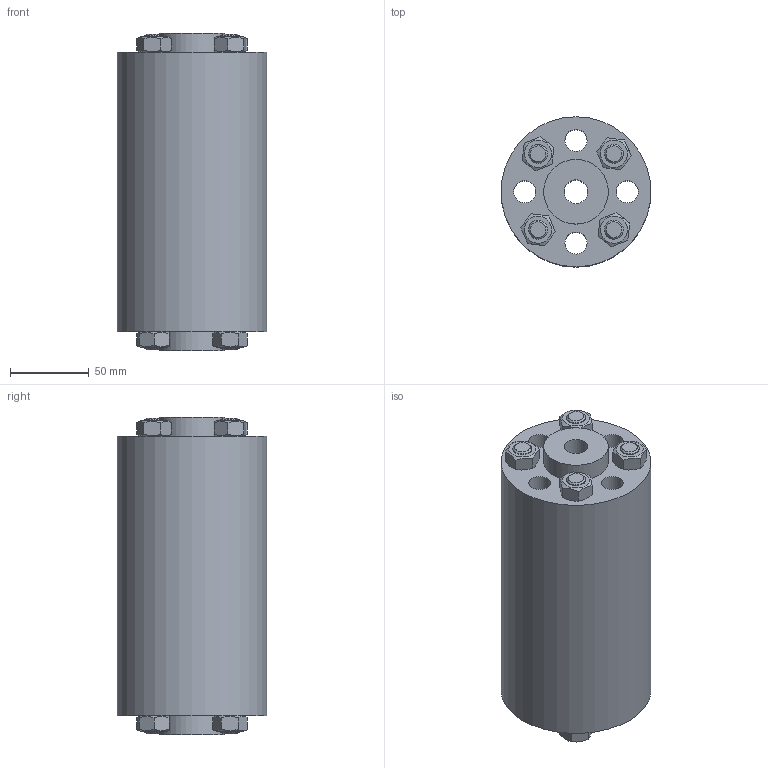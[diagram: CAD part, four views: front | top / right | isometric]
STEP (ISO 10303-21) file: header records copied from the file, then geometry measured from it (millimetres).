
FILE_DESCRIPTION(/* description */ ('ACI TYPE 620 DN15'),/* implementation_level */ '2;1');
FILE_NAME(/* name */ 'C:\Users\willms\Desktop\ACI-620-15.stp',/* time_stamp */ '2020-03-19T10:12:28+01:00',/* author */ ('götz'),/* organization */ ('ACI Industriearmaturen GmbH www.aci24.com info@aci24.com'),/* preprocessor_version */ 'ST-DEVELOPER v16.1',/* originating_system */ 'Autodesk Inventor 2016',/* authorisation */ 'ACI Industriearmaturen GmbH www.aci24.com info@aci24.com');
FILE_SCHEMA (('CONFIG_CONTROL_DESIGN'));
Length unit declared in the file: centimetre
Products named in the file (1): ACI-620-15
Bounding box: 95 x 95 x 201 mm (x, y, z)
Volume: 1167441.2 mm3; surface area: 115280.6 mm2
Topology: 1 solids, 9 shells, 140 faces, 313 edges, 201 vertices
Faces by surface type: plane 76, cone 40, cylinder 24
Full cylindrical faces by diameter (mm): 12 x16, 14 x4, 15 x1, 41 x2, 95 x1
Entity records: 3498 total; most frequent: CARTESIAN_POINT 749, DIRECTION 506, ORIENTED_EDGE 464, EDGE_LOOP 240, EDGE_CURVE 232, AXIS2_PLACEMENT_3D 229, VERTEX_POINT 184, FACE_OUTER_BOUND 140
